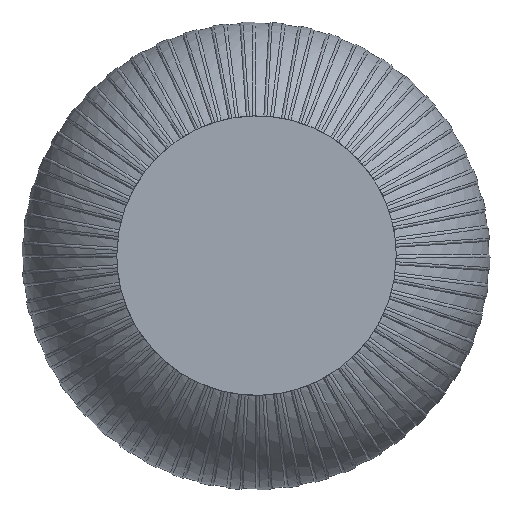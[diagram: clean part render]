
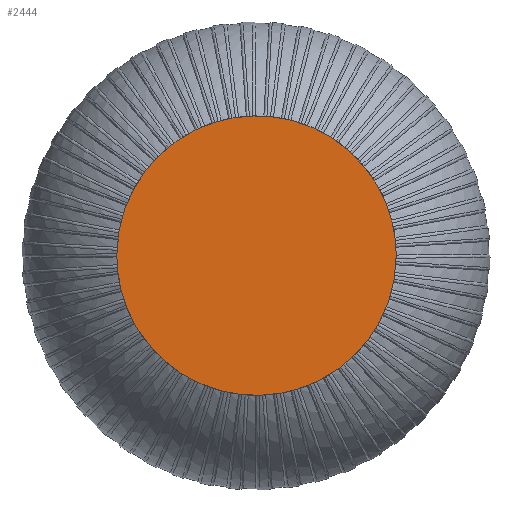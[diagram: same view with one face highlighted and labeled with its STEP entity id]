
A CAD part, front view. The second image highlights one B-rep face of the part: STEP entity #2444.
In plain terms, the highlighted free-form (B-spline) face has degree [1, 1] with [2, 2] control points.
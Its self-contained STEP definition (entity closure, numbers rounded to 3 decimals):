
#1386 = B_SPLINE_SURFACE_WITH_KNOTS ( 'NONE', 1, 1, ( 
 ( #28946, #28076 ),
 ( #55109, #32588 ) ),
 .UNSPECIFIED., .F., .F., .F.,
 ( 2, 2 ),
 ( 2, 2 ),
 ( -75., 75. ),
 ( -75., 75. ),
 .UNSPECIFIED. ) ;
#2444 = ADVANCED_FACE ( 'NONE', ( #47003 ), #1386, .T. ) ;
#2762 = CARTESIAN_POINT ( 'NONE',  ( 60., -20., 0. ) ) ;
#4325 = CARTESIAN_POINT ( 'NONE',  ( 60., -20., 60. ) ) ;
#4533 = ORIENTED_EDGE ( 'NONE', *, *, #36282, .F. ) ;
#8460 = EDGE_LOOP ( 'NONE', ( #29921, #4533 ) ) ;
#11331 =( BOUNDED_CURVE ( )  B_SPLINE_CURVE ( 2, ( #2762, #25625, #16287, #53548, #49057 ),
 .UNSPECIFIED., .F., .T. ) 
 B_SPLINE_CURVE_WITH_KNOTS ( ( 3, 2, 3 ),
 ( 0., 94.248, 188.496 ),
 .UNSPECIFIED. ) 
 CURVE ( )  GEOMETRIC_REPRESENTATION_ITEM ( )  RATIONAL_B_SPLINE_CURVE ( ( 1., 0.707, 1., 0.707, 1. ) ) 
 REPRESENTATION_ITEM ( '' )  );
#16287 = CARTESIAN_POINT ( 'NONE',  ( 0., -20., -60. ) ) ;
#17265 = CARTESIAN_POINT ( 'NONE',  ( -60., -20., 0. ) ) ;
#25625 = CARTESIAN_POINT ( 'NONE',  ( 60., -20., -60. ) ) ;
#27099 = EDGE_CURVE ( 'NONE', #56425, #38867, #11331, .T. ) ;
#28076 = CARTESIAN_POINT ( 'NONE',  ( -75., -20., 75. ) ) ;
#28120 = CARTESIAN_POINT ( 'NONE',  ( 60., -20., 0. ) ) ;
#28946 = CARTESIAN_POINT ( 'NONE',  ( -75., -20., -75. ) ) ;
#29921 = ORIENTED_EDGE ( 'NONE', *, *, #27099, .F. ) ;
#30806 = CARTESIAN_POINT ( 'NONE',  ( -60., -20., 60. ) ) ;
#31694 = CARTESIAN_POINT ( 'NONE',  ( 60., -20., 0. ) ) ;
#32588 = CARTESIAN_POINT ( 'NONE',  ( 75., -20., 75. ) ) ;
#36282 = EDGE_CURVE ( 'NONE', #38867, #56425, #59101, .T. ) ;
#36499 = CARTESIAN_POINT ( 'NONE',  ( -60., -20., 0. ) ) ;
#38867 = VERTEX_POINT ( 'NONE', #36499 ) ;
#47003 = FACE_OUTER_BOUND ( 'NONE', #8460, .T. ) ;
#49057 = CARTESIAN_POINT ( 'NONE',  ( -60., -20., 0. ) ) ;
#50314 = CARTESIAN_POINT ( 'NONE',  ( 0., -20., 60. ) ) ;
#53548 = CARTESIAN_POINT ( 'NONE',  ( -60., -20., -60. ) ) ;
#55109 = CARTESIAN_POINT ( 'NONE',  ( 75., -20., -75. ) ) ;
#56425 = VERTEX_POINT ( 'NONE', #28120 ) ;
#59101 =( BOUNDED_CURVE ( )  B_SPLINE_CURVE ( 2, ( #17265, #30806, #50314, #4325, #31694 ),
 .UNSPECIFIED., .F., .F. ) 
 B_SPLINE_CURVE_WITH_KNOTS ( ( 3, 2, 3 ),
 ( 188.496, 282.743, 376.991 ),
 .UNSPECIFIED. ) 
 CURVE ( )  GEOMETRIC_REPRESENTATION_ITEM ( )  RATIONAL_B_SPLINE_CURVE ( ( 1., 0.707, 1., 0.707, 1. ) ) 
 REPRESENTATION_ITEM ( '' )  );
